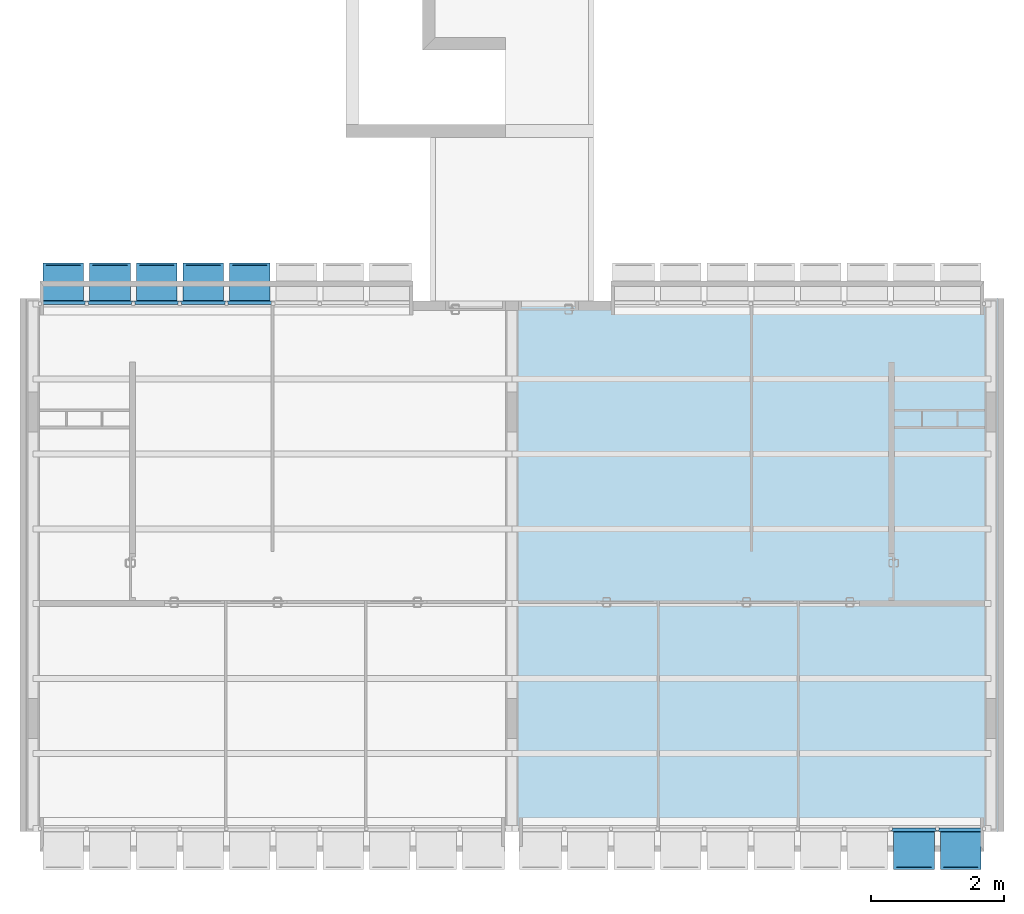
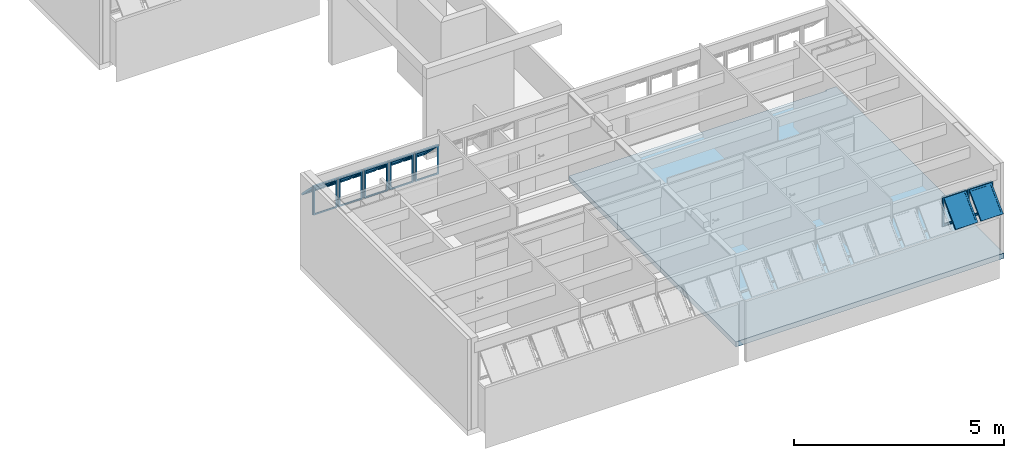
# One storey, part 7 of 40: 7 plates, 1 slab, 2 elements without a shape of their own.
"""IFC4 building model written with IfcOpenShell, lengths in millimetres."""

from ifc_helpers import new_model, entity, si_unit, converted_unit, derived_unit, direction, frame, origin_with_axes, place, context, subcontext, project, spatial, line, indexed_curve, outline, extrude, polygons, source, transform, mapped, material, layer, layer_set, layer_usage, constituent, constituent_set, type_object, element, aggregate, save


model = new_model("IFC4")

# Units and contexts
model_context = context("Model", 3, precision=0.01, world=origin_with_axes(), true_north=direction((0.0, 1.0)))
body_context = subcontext(model_context, "Body", "Model", "MODEL_VIEW")
ifc_project = project(units=[si_unit("LENGTHUNIT", "METRE", prefix="MILLI"), si_unit("AREAUNIT", "SQUARE_METRE"), si_unit("VOLUMEUNIT", "CUBIC_METRE"), converted_unit("PLANEANGLEUNIT", "DEGREE", entity("IfcPlaneAngleMeasure", 0.0174532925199), si_unit("PLANEANGLEUNIT", "RADIAN"), dimensions=[0, 0, 0, 0, 0, 0, 0]), converted_unit("TIMEUNIT", "Year", entity("IfcTimeMeasure", 31556926.0), si_unit("TIMEUNIT", "SECOND"), dimensions=[0, 0, 1, 0, 0, 0, 0]), si_unit("MASSUNIT", "GRAM", prefix="KILO"), si_unit("THERMODYNAMICTEMPERATUREUNIT", "DEGREE_CELSIUS"), si_unit("LUMINOUSINTENSITYUNIT", "LUMEN"), si_unit("ENERGYUNIT", "JOULE", prefix="MEGA"), derived_unit("THERMALCONDUCTANCEUNIT", [(si_unit("POWERUNIT", "WATT"), 1), (si_unit("LENGTHUNIT", "METRE"), -1), (si_unit("THERMODYNAMICTEMPERATUREUNIT", "KELVIN"), -1)]), derived_unit("SPECIFICHEATCAPACITYUNIT", [(si_unit("ENERGYUNIT", "JOULE"), 1), (si_unit("MASSUNIT", "GRAM", prefix="KILO"), -1), (si_unit("THERMODYNAMICTEMPERATUREUNIT", "KELVIN"), -1)]), derived_unit("MASSDENSITYUNIT", [(si_unit("MASSUNIT", "GRAM", prefix="KILO"), 1), (si_unit("VOLUMEUNIT", "CUBIC_METRE"), -1)])], contexts=[model_context])

# Site, building, storey
site_placement = place(None, origin_with_axes())
site = spatial("IfcSite", under=ifc_project, at=site_placement, Name="Local", CompositionType="ELEMENT")
building_placement = place(site_placement, origin_with_axes())
building = spatial("IfcBuilding", under=site, at=building_placement, Name="Construção", CompositionType="ELEMENT")
storey_placement = place(building_placement, frame((0.0, 0.0, 5300.0), z_axis=(0.0, 0.0, 1.0), x_axis=(1.0, 0.0, 0.0)))
storey = spatial("IfcBuildingStorey", under=building, at=storey_placement, Name="Terceiro Pavimento", CompositionType="ELEMENT", Elevation=5300.0)

# Slab
ifc_material_1 = material(Name="Concreto Armado Moldado in Loco - Estrutural")
ifc_layer = layer(ifc_material_1, 150.0, ventilated="UNKNOWN", Name="Concreto Armado Moldado in Loco - Estrutural")
ifc_layer_set = layer_set([ifc_layer], Name="Concreto Armado Moldado in Loco - Estrutural 150")
ifc_layer_usage = layer_usage(ifc_layer_set, "AXIS3", "NEGATIVE", 150.0)
slab_type = type_object("IfcSlabType", Name="Concreto Armado Moldado in Loco - Estrutural 150", PredefinedType="FLOOR")
slab_placement = place(storey_placement, frame((14770.0, 300.0, 0.0), z_axis=(0.0, 0.0, 1.0), x_axis=(1.0, 0.0, 0.0)))
element("IfcSlab", 1, at=slab_placement, inside=storey, type_object=slab_type, material=ifc_layer_usage, Name="APTO10-LAJE-000", PredefinedType="FLOOR", context=body_context, shape_type="SweptSolid", body=[
    extrude(outline(indexed_curve([(0.0, 0.0), (0.0, 7999.99999872), (-289.999999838, 8000.00000006), (-290.0, 7965.0), (-5900.0, 7965.0), (-6160.00008404, 7964.99999866), (-7385.0, 7964.99999866), (-7385.0, 0.0), (-299.999978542, 0.0)], segments=[line(1, 2, 3, 4, 5, 6, 7, 8, 9, 1)])), frame((0.0, 0.0, -150.0), z_axis=(0.0, 0.0, 1.0), x_axis=(1.0, 0.0, 0.0)), (0.0, 0.0, 1.0), 150.0),
])

# Window, plates
window_type = type_object("IfcWindowType", Name="Tipo de Parede Cortina", PartitioningType="NOTDEFINED", PredefinedType="NOTDEFINED")
window_1_placement = place(storey_placement, frame((2750.0, 8250.0, 1355.00007107), z_axis=(0.0, 0.0, 1.0), x_axis=(1.0, 0.0, 0.0)))
window_1 = element("IfcWindow", 2, at=window_1_placement, inside=storey, type_object=window_type, Name="APTO9-JANELA-000", PredefinedType="NOTDEFINED")
ifc_material_2 = material(Name="Alumínio")
ifc_constituent_1 = constituent(ifc_material_2, Name="Alumínio")
ifc_material_3 = material(Name="Vidro")
ifc_constituent_2 = constituent(ifc_material_3, Name="Vidro")
ifc_constituent_set_1 = constituent_set(constituents=[ifc_constituent_1, ifc_constituent_2])
plate_type = type_object("IfcPlateType", Name="Painel Principal 690 x 845 x 20", PredefinedType="CURTAIN_PANEL")
shared_shape_1 = source(origin_with_axes(), body_context, "Body", "Tessellation", [
    polygons([(-25.0000036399, 0.0, -40.0), (-25.0000036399, 0.0, -35.0), (-674.999997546, 0.0, -35.0), (-674.999997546, 0.0, -40.0), (-70.0000036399, 45.0, -40.0), (-70.0000036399, 45.0, -35.0), (-629.999997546, 45.0, -35.0), (-629.999997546, 45.0, -40.0)], [[[1, 2, 3, 4]], [[5, 6, 2, 1]], [[2, 6, 7, 3]], [[4, 3, 7, 8]], [[1, 4, 8, 5]], [[8, 7, 6, 5]]], closed=True),
    polygons([(-674.999997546, 0.0, -40.0), (-674.999997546, 0.0, -35.0), (-674.999997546, 844.999891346, -35.0), (-674.999997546, 844.999891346, -40.0), (-629.999997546, 45.0, -40.0), (-629.999997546, 45.0, -35.0), (-629.999997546, 799.999891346, -35.0), (-629.999997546, 799.999891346, -40.0)], [[[1, 2, 3, 4]], [[5, 6, 2, 1]], [[2, 6, 7, 3]], [[4, 3, 7, 8]], [[1, 4, 8, 5]], [[8, 7, 6, 5]]], closed=True),
    polygons([(-25.0000036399, 844.999891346, -40.0), (-25.0000036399, 844.999891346, -35.0), (-70.0000036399, 799.999891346, -35.0), (-70.0000036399, 799.999891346, -40.0), (-674.999997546, 844.999891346, -40.0), (-674.999997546, 844.999891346, -35.0), (-629.999997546, 799.999891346, -35.0), (-629.999997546, 799.999891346, -40.0)], [[[1, 2, 3, 4]], [[5, 6, 2, 1]], [[2, 6, 7, 3]], [[4, 3, 7, 8]], [[1, 4, 8, 5]], [[8, 7, 6, 5]]], closed=True),
    polygons([(-25.0000036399, 0.0, -40.0), (-25.0000036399, 0.0, -35.0), (-70.0000036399, 45.0, -35.0), (-70.0000036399, 45.0, -40.0), (-25.0000036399, 844.999891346, -40.0), (-25.0000036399, 844.999891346, -35.0), (-70.0000036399, 799.999891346, -35.0), (-70.0000036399, 799.999891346, -40.0)], [[[1, 2, 3, 4]], [[5, 6, 2, 1]], [[2, 6, 7, 3]], [[4, 3, 7, 8]], [[1, 4, 8, 5]], [[8, 7, 6, 5]]], closed=True),
    polygons([(-25.0000036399, 0.0, -35.0), (-25.0000036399, 0.0, 15.0), (-674.999997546, 0.0, 15.0), (-674.999997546, 0.0, -35.0), (-45.0000036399, 20.0, -35.0), (-45.0000036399, 20.0, 15.0), (-654.999997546, 20.0, 15.0), (-654.999997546, 20.0, -35.0)], [[[1, 2, 3, 4]], [[5, 6, 2, 1]], [[2, 6, 7, 3]], [[4, 3, 7, 8]], [[1, 4, 8, 5]], [[8, 7, 6, 5]]], closed=True),
    polygons([(-674.999997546, 0.0, -35.0), (-674.999997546, 0.0, 15.0), (-674.999997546, 844.999891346, 15.0), (-674.999997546, 844.999891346, -35.0), (-654.999997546, 20.0, -35.0), (-654.999997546, 20.0, 15.0), (-654.999997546, 824.999891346, 15.0), (-654.999997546, 824.999891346, -35.0)], [[[1, 2, 3, 4]], [[5, 6, 2, 1]], [[2, 6, 7, 3]], [[4, 3, 7, 8]], [[1, 4, 8, 5]], [[8, 7, 6, 5]]], closed=True),
    polygons([(-25.0000036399, 844.999891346, -35.0), (-25.0000036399, 844.999891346, 15.0), (-45.0000036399, 824.999891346, 15.0), (-45.0000036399, 824.999891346, -35.0), (-674.999997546, 844.999891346, -35.0), (-674.999997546, 844.999891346, 15.0), (-654.999997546, 824.999891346, 15.0), (-654.999997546, 824.999891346, -35.0)], [[[1, 2, 3, 4]], [[5, 6, 2, 1]], [[2, 6, 7, 3]], [[4, 3, 7, 8]], [[1, 4, 8, 5]], [[8, 7, 6, 5]]], closed=True),
    polygons([(-25.0000036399, 0.0, -35.0), (-25.0000036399, 0.0, 15.0), (-45.0000036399, 20.0, 15.0), (-45.0000036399, 20.0, -35.0), (-25.0000036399, 844.999891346, -35.0), (-25.0000036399, 844.999891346, 15.0), (-45.0000036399, 824.999891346, 15.0), (-45.0000036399, 824.999891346, -35.0)], [[[1, 2, 3, 4]], [[5, 6, 2, 1]], [[2, 6, 7, 3]], [[4, 3, 7, 8]], [[1, 4, 8, 5]], [[8, 7, 6, 5]]], closed=True),
    polygons([(-694.999995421, 0.0, -10.0), (-694.999995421, 0.0, 10.0), (-694.999995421, 844.999891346, 10.0), (-694.999995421, 844.999891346, -10.0), (-674.999997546, 0.0, -10.0), (-674.999997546, 0.0, 10.0), (-674.999997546, 844.999891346, 10.0), (-674.999997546, 844.999891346, -10.0)], [[[1, 2, 3, 4]], [[5, 6, 2, 1]], [[2, 6, 7, 3]], [[4, 3, 7, 8]], [[1, 4, 8, 5]], [[8, 7, 6, 5]]], closed=True),
    polygons([(-5.00000576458, 844.999891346, -10.0), (-5.00000576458, 844.999891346, 10.0), (-5.00000576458, 0.0, 10.0), (-5.00000576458, 0.0, -10.0), (-25.0000036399, 844.999891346, -10.0), (-25.0000036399, 844.999891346, 10.0), (-25.0000036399, 0.0, 10.0), (-25.0000036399, 0.0, -10.0)], [[[1, 2, 3, 4]], [[5, 6, 2, 1]], [[2, 6, 7, 3]], [[4, 3, 7, 8]], [[1, 4, 8, 5]], [[8, 7, 6, 5]]], closed=True),
    polygons([(-90.0000036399, 252.243475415, 517.045737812), (-90.0000036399, 291.13434838, 555.936610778), (-90.0000036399, 796.715620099, 50.3553390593), (-90.0000036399, 757.824747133, 11.4644660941), (-45.0000036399, 220.423670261, 548.865542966), (-45.0000036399, 259.314543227, 587.756415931), (-45.0000036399, 828.535425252, 18.5355339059), (-45.0000036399, 789.644552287, -20.3553390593)], [[[1, 2, 3, 4]], [[5, 6, 2, 1]], [[2, 6, 7, 3]], [[4, 3, 7, 8]], [[1, 4, 8, 5]], [[8, 7, 6, 5]]], closed=True),
    polygons([(-654.999997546, 220.423670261, 548.865542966), (-654.999997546, 259.314543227, 587.756415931), (-654.999997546, 828.535425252, 18.5355339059), (-654.999997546, 789.644552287, -20.3553390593), (-609.999997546, 252.243475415, 517.045737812), (-609.999997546, 291.13434838, 555.936610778), (-609.999997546, 796.715620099, 50.3553390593), (-609.999997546, 757.824747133, 11.4644660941)], [[[1, 2, 3, 4]], [[5, 6, 2, 1]], [[2, 6, 7, 3]], [[4, 3, 7, 8]], [[1, 4, 8, 5]], [[8, 7, 6, 5]]], closed=True),
    polygons([(-654.999997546, 220.423670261, 548.865542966), (-654.999997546, 259.314543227, 587.756415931), (-609.999997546, 291.13434838, 555.936610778), (-609.999997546, 252.243475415, 517.045737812), (-45.0000036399, 220.423670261, 548.865542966), (-45.0000036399, 259.314543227, 587.756415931), (-90.0000036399, 291.13434838, 555.936610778), (-90.0000036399, 252.243475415, 517.045737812)], [[[1, 2, 3, 4]], [[5, 6, 2, 1]], [[2, 6, 7, 3]], [[4, 3, 7, 8]], [[1, 4, 8, 5]], [[8, 7, 6, 5]]], closed=True),
    polygons([(-45.0000036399, 789.644552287, -20.3553390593), (-45.0000036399, 828.535425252, 18.5355339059), (-90.0000036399, 796.715620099, 50.3553390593), (-90.0000036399, 757.824747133, 11.4644660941), (-654.999997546, 789.644552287, -20.3553390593), (-654.999997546, 828.535425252, 18.5355339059), (-609.999997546, 796.715620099, 50.3553390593), (-609.999997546, 757.824747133, 11.4644660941)], [[[1, 2, 3, 4]], [[5, 6, 2, 1]], [[2, 6, 7, 3]], [[4, 3, 7, 8]], [[1, 4, 8, 5]], [[8, 7, 6, 5]]], closed=True),
    polygons([(-90.0000036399, 272.749572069, 537.551834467), (-90.0000036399, 284.063280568, 548.865542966), (-609.999997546, 284.063280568, 548.865542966), (-609.999997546, 272.749572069, 537.551834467), (-90.0000036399, 778.330843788, 31.9705627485), (-90.0000036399, 789.644552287, 43.2842712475), (-609.999997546, 789.644552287, 43.2842712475), (-609.999997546, 778.330843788, 31.9705627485)], [[[1, 2, 3, 4]], [[5, 6, 2, 1]], [[2, 6, 7, 3]], [[4, 3, 7, 8]], [[1, 4, 8, 5]], [[8, 7, 6, 5]]], closed=True),
])
plate_1_placement = place(window_1_placement, frame((0.0, 0.0, 422.499964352), z_axis=(0.0, 0.0, 1.0), x_axis=(-1.0, 0.0, 0.0)))
plate_1 = element("IfcPlate", 3, at=plate_1_placement, type_object=plate_type, material=ifc_constituent_set_1, Name="APTO9-Painel-Prin-013", PredefinedType="CURTAIN_PANEL", context=body_context, shape_type="MappedRepresentation", body=[
    mapped(shared_shape_1, transform((350.0, 0.0, -422.499964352), x_axis=(1.0, 0.0, 0.0), y_axis=(0.0, 0.0, 1.0), z_axis=(0.0, -1.0, 0.0))),
])
ifc_constituent_3 = constituent(ifc_material_2, Name="Alumínio")
ifc_constituent_4 = constituent(ifc_material_3, Name="Vidro")
ifc_constituent_set_2 = constituent_set(constituents=[ifc_constituent_3, ifc_constituent_4])
shared_shape_2 = source(origin_with_axes(), body_context, "Body", "Tessellation", [
    polygons([(-25.0000036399, 0.0, -40.0), (-25.0000036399, 0.0, -35.0), (-674.999997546, 0.0, -35.0), (-674.999997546, 0.0, -40.0), (-70.0000036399, 45.0, -40.0), (-70.0000036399, 45.0, -35.0), (-629.999997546, 45.0, -35.0), (-629.999997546, 45.0, -40.0)], [[[1, 2, 3, 4]], [[5, 6, 2, 1]], [[2, 6, 7, 3]], [[4, 3, 7, 8]], [[1, 4, 8, 5]], [[8, 7, 6, 5]]], closed=True),
    polygons([(-674.999997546, 0.0, -40.0), (-674.999997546, 0.0, -35.0), (-674.999997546, 844.999891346, -35.0), (-674.999997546, 844.999891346, -40.0), (-629.999997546, 45.0, -40.0), (-629.999997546, 45.0, -35.0), (-629.999997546, 799.999891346, -35.0), (-629.999997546, 799.999891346, -40.0)], [[[1, 2, 3, 4]], [[5, 6, 2, 1]], [[2, 6, 7, 3]], [[4, 3, 7, 8]], [[1, 4, 8, 5]], [[8, 7, 6, 5]]], closed=True),
    polygons([(-25.0000036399, 844.999891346, -40.0), (-25.0000036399, 844.999891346, -35.0), (-70.0000036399, 799.999891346, -35.0), (-70.0000036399, 799.999891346, -40.0), (-674.999997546, 844.999891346, -40.0), (-674.999997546, 844.999891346, -35.0), (-629.999997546, 799.999891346, -35.0), (-629.999997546, 799.999891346, -40.0)], [[[1, 2, 3, 4]], [[5, 6, 2, 1]], [[2, 6, 7, 3]], [[4, 3, 7, 8]], [[1, 4, 8, 5]], [[8, 7, 6, 5]]], closed=True),
    polygons([(-25.0000036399, 0.0, -40.0), (-25.0000036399, 0.0, -35.0), (-70.0000036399, 45.0, -35.0), (-70.0000036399, 45.0, -40.0), (-25.0000036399, 844.999891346, -40.0), (-25.0000036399, 844.999891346, -35.0), (-70.0000036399, 799.999891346, -35.0), (-70.0000036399, 799.999891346, -40.0)], [[[1, 2, 3, 4]], [[5, 6, 2, 1]], [[2, 6, 7, 3]], [[4, 3, 7, 8]], [[1, 4, 8, 5]], [[8, 7, 6, 5]]], closed=True),
    polygons([(-25.0000036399, 0.0, -35.0), (-25.0000036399, 0.0, 15.0), (-674.999997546, 0.0, 15.0), (-674.999997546, 0.0, -35.0), (-45.0000036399, 20.0, -35.0), (-45.0000036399, 20.0, 15.0), (-654.999997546, 20.0, 15.0), (-654.999997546, 20.0, -35.0)], [[[1, 2, 3, 4]], [[5, 6, 2, 1]], [[2, 6, 7, 3]], [[4, 3, 7, 8]], [[1, 4, 8, 5]], [[8, 7, 6, 5]]], closed=True),
    polygons([(-674.999997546, 0.0, -35.0), (-674.999997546, 0.0, 15.0), (-674.999997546, 844.999891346, 15.0), (-674.999997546, 844.999891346, -35.0), (-654.999997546, 20.0, -35.0), (-654.999997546, 20.0, 15.0), (-654.999997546, 824.999891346, 15.0), (-654.999997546, 824.999891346, -35.0)], [[[1, 2, 3, 4]], [[5, 6, 2, 1]], [[2, 6, 7, 3]], [[4, 3, 7, 8]], [[1, 4, 8, 5]], [[8, 7, 6, 5]]], closed=True),
    polygons([(-25.0000036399, 844.999891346, -35.0), (-25.0000036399, 844.999891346, 15.0), (-45.0000036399, 824.999891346, 15.0), (-45.0000036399, 824.999891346, -35.0), (-674.999997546, 844.999891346, -35.0), (-674.999997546, 844.999891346, 15.0), (-654.999997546, 824.999891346, 15.0), (-654.999997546, 824.999891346, -35.0)], [[[1, 2, 3, 4]], [[5, 6, 2, 1]], [[2, 6, 7, 3]], [[4, 3, 7, 8]], [[1, 4, 8, 5]], [[8, 7, 6, 5]]], closed=True),
    polygons([(-25.0000036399, 0.0, -35.0), (-25.0000036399, 0.0, 15.0), (-45.0000036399, 20.0, 15.0), (-45.0000036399, 20.0, -35.0), (-25.0000036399, 844.999891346, -35.0), (-25.0000036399, 844.999891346, 15.0), (-45.0000036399, 824.999891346, 15.0), (-45.0000036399, 824.999891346, -35.0)], [[[1, 2, 3, 4]], [[5, 6, 2, 1]], [[2, 6, 7, 3]], [[4, 3, 7, 8]], [[1, 4, 8, 5]], [[8, 7, 6, 5]]], closed=True),
    polygons([(-694.999995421, 0.0, -10.0), (-694.999995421, 0.0, 10.0), (-694.999995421, 844.999891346, 10.0), (-694.999995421, 844.999891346, -10.0), (-674.999997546, 0.0, -10.0), (-674.999997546, 0.0, 10.0), (-674.999997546, 844.999891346, 10.0), (-674.999997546, 844.999891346, -10.0)], [[[1, 2, 3, 4]], [[5, 6, 2, 1]], [[2, 6, 7, 3]], [[4, 3, 7, 8]], [[1, 4, 8, 5]], [[8, 7, 6, 5]]], closed=True),
    polygons([(-5.00000576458, 844.999891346, -10.0), (-5.00000576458, 844.999891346, 10.0), (-5.00000576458, 0.0, 10.0), (-5.00000576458, 0.0, -10.0), (-25.0000036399, 844.999891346, -10.0), (-25.0000036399, 844.999891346, 10.0), (-25.0000036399, 0.0, 10.0), (-25.0000036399, 0.0, -10.0)], [[[1, 2, 3, 4]], [[5, 6, 2, 1]], [[2, 6, 7, 3]], [[4, 3, 7, 8]], [[1, 4, 8, 5]], [[8, 7, 6, 5]]], closed=True),
    polygons([(-90.0000036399, 252.243475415, 517.045737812), (-90.0000036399, 291.13434838, 555.936610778), (-90.0000036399, 796.715620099, 50.3553390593), (-90.0000036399, 757.824747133, 11.4644660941), (-45.0000036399, 220.423670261, 548.865542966), (-45.0000036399, 259.314543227, 587.756415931), (-45.0000036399, 828.535425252, 18.5355339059), (-45.0000036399, 789.644552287, -20.3553390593)], [[[1, 2, 3, 4]], [[5, 6, 2, 1]], [[2, 6, 7, 3]], [[4, 3, 7, 8]], [[1, 4, 8, 5]], [[8, 7, 6, 5]]], closed=True),
    polygons([(-654.999997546, 220.423670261, 548.865542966), (-654.999997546, 259.314543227, 587.756415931), (-654.999997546, 828.535425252, 18.5355339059), (-654.999997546, 789.644552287, -20.3553390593), (-609.999997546, 252.243475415, 517.045737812), (-609.999997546, 291.13434838, 555.936610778), (-609.999997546, 796.715620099, 50.3553390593), (-609.999997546, 757.824747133, 11.4644660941)], [[[1, 2, 3, 4]], [[5, 6, 2, 1]], [[2, 6, 7, 3]], [[4, 3, 7, 8]], [[1, 4, 8, 5]], [[8, 7, 6, 5]]], closed=True),
    polygons([(-654.999997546, 220.423670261, 548.865542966), (-654.999997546, 259.314543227, 587.756415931), (-609.999997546, 291.13434838, 555.936610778), (-609.999997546, 252.243475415, 517.045737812), (-45.0000036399, 220.423670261, 548.865542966), (-45.0000036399, 259.314543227, 587.756415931), (-90.0000036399, 291.13434838, 555.936610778), (-90.0000036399, 252.243475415, 517.045737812)], [[[1, 2, 3, 4]], [[5, 6, 2, 1]], [[2, 6, 7, 3]], [[4, 3, 7, 8]], [[1, 4, 8, 5]], [[8, 7, 6, 5]]], closed=True),
    polygons([(-45.0000036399, 789.644552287, -20.3553390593), (-45.0000036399, 828.535425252, 18.5355339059), (-90.0000036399, 796.715620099, 50.3553390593), (-90.0000036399, 757.824747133, 11.4644660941), (-654.999997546, 789.644552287, -20.3553390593), (-654.999997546, 828.535425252, 18.5355339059), (-609.999997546, 796.715620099, 50.3553390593), (-609.999997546, 757.824747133, 11.4644660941)], [[[1, 2, 3, 4]], [[5, 6, 2, 1]], [[2, 6, 7, 3]], [[4, 3, 7, 8]], [[1, 4, 8, 5]], [[8, 7, 6, 5]]], closed=True),
    polygons([(-90.0000036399, 272.749572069, 537.551834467), (-90.0000036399, 284.063280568, 548.865542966), (-609.999997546, 284.063280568, 548.865542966), (-609.999997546, 272.749572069, 537.551834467), (-90.0000036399, 778.330843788, 31.9705627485), (-90.0000036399, 789.644552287, 43.2842712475), (-609.999997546, 789.644552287, 43.2842712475), (-609.999997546, 778.330843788, 31.9705627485)], [[[1, 2, 3, 4]], [[5, 6, 2, 1]], [[2, 6, 7, 3]], [[4, 3, 7, 8]], [[1, 4, 8, 5]], [[8, 7, 6, 5]]], closed=True),
])
plate_2_placement = place(window_1_placement, frame((-2100.0, 0.0, 422.499998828), z_axis=(0.0, 0.0, 1.0), x_axis=(-1.0, 0.0, 0.0)))
plate_2 = element("IfcPlate", 4, at=plate_2_placement, type_object=plate_type, material=ifc_constituent_set_2, Name="APTO9-Painel-Prin-013", PredefinedType="CURTAIN_PANEL", context=body_context, shape_type="MappedRepresentation", body=[
    mapped(shared_shape_2, transform((350.0, 0.0, -422.499998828), x_axis=(1.0, 0.0, 0.0), y_axis=(0.0, 0.0, 1.0), z_axis=(0.0, -1.0, 0.0))),
])
ifc_constituent_5 = constituent(ifc_material_2, Name="Alumínio")
ifc_constituent_6 = constituent(ifc_material_3, Name="Vidro")
ifc_constituent_set_3 = constituent_set(constituents=[ifc_constituent_5, ifc_constituent_6])
plate_3_placement = place(window_1_placement, frame((-1400.0, 0.0, 422.499964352), z_axis=(0.0, 0.0, 1.0), x_axis=(-1.0, 0.0, 0.0)))
plate_3 = element("IfcPlate", 5, at=plate_3_placement, type_object=plate_type, material=ifc_constituent_set_3, Name="APTO9-Painel-Prin-013", PredefinedType="CURTAIN_PANEL", context=body_context, shape_type="MappedRepresentation", body=[
    mapped(shared_shape_2, transform((350.0, 0.0, -422.499964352), x_axis=(1.0, 0.0, 0.0), y_axis=(0.0, 0.0, 1.0), z_axis=(0.0, -1.0, 0.0))),
])

window_2_placement = place(storey_placement, frame((8520.0, 315.020977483, 1355.02054151), z_axis=(0.0, 0.0, 1.0), x_axis=(1.0, 0.0, 0.0)))
window_2 = element("IfcWindow", 6, at=window_2_placement, inside=storey, type_object=window_type, Name="APTO10-JANELA-001", PredefinedType="NOTDEFINED")
ifc_constituent_7 = constituent(ifc_material_2, Name="Alumínio")
ifc_constituent_8 = constituent(ifc_material_3, Name="Vidro")
ifc_constituent_set_4 = constituent_set(constituents=[ifc_constituent_7, ifc_constituent_8])
plate_4_placement = place(window_2_placement, frame((5600.0, 0.0, 422.499945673), z_axis=(0.0, 0.0, 1.0), x_axis=(1.0, 0.0, 0.0)))
plate_4 = element("IfcPlate", 7, at=plate_4_placement, type_object=plate_type, material=ifc_constituent_set_4, Name="APTO10-Painel-Prin-013", PredefinedType="CURTAIN_PANEL", context=body_context, shape_type="MappedRepresentation", body=[
    mapped(shared_shape_2, transform((350.0, 0.0, -422.499945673), x_axis=(1.0, 0.0, 0.0), y_axis=(0.0, 0.0, 1.0), z_axis=(0.0, -1.0, 0.0))),
])
ifc_constituent_9 = constituent(ifc_material_2, Name="Alumínio")
ifc_constituent_10 = constituent(ifc_material_3, Name="Vidro")
ifc_constituent_set_5 = constituent_set(constituents=[ifc_constituent_9, ifc_constituent_10])
plate_5_placement = place(window_2_placement, frame((4900.0, 0.0, 422.499945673), z_axis=(0.0, 0.0, 1.0), x_axis=(1.0, 0.0, 0.0)))
plate_5 = element("IfcPlate", 8, at=plate_5_placement, type_object=plate_type, material=ifc_constituent_set_5, Name="APTO10-Painel-Prin-013", PredefinedType="CURTAIN_PANEL", context=body_context, shape_type="MappedRepresentation", body=[
    mapped(shared_shape_2, transform((350.0, 0.0, -422.499945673), x_axis=(1.0, 0.0, 0.0), y_axis=(0.0, 0.0, 1.0), z_axis=(0.0, -1.0, 0.0))),
])
aggregate(window_2, [plate_4, plate_5])

# Plate
ifc_constituent_11 = constituent(ifc_material_2, Name="Alumínio")
ifc_constituent_12 = constituent(ifc_material_3, Name="Vidro")
ifc_constituent_set_6 = constituent_set(constituents=[ifc_constituent_11, ifc_constituent_12])
shared_shape_3 = source(origin_with_axes(), body_context, "Body", "Tessellation", [
    polygons([(-25.0000036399, 0.0, -40.0), (-25.0000036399, 0.0, -35.0), (-674.999997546, 0.0, -35.0), (-674.999997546, 0.0, -40.0), (-70.0000036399, 45.0, -40.0), (-70.0000036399, 45.0, -35.0), (-629.999997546, 45.0, -35.0), (-629.999997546, 45.0, -40.0)], [[[1, 2, 3, 4]], [[5, 6, 2, 1]], [[2, 6, 7, 3]], [[4, 3, 7, 8]], [[1, 4, 8, 5]], [[8, 7, 6, 5]]], closed=True),
    polygons([(-674.999997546, 0.0, -40.0), (-674.999997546, 0.0, -35.0), (-674.999997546, 844.999891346, -35.0), (-674.999997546, 844.999891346, -40.0), (-629.999997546, 45.0, -40.0), (-629.999997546, 45.0, -35.0), (-629.999997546, 799.999891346, -35.0), (-629.999997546, 799.999891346, -40.0)], [[[1, 2, 3, 4]], [[5, 6, 2, 1]], [[2, 6, 7, 3]], [[4, 3, 7, 8]], [[1, 4, 8, 5]], [[8, 7, 6, 5]]], closed=True),
    polygons([(-25.0000036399, 844.999891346, -40.0), (-25.0000036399, 844.999891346, -35.0), (-70.0000036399, 799.999891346, -35.0), (-70.0000036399, 799.999891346, -40.0), (-674.999997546, 844.999891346, -40.0), (-674.999997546, 844.999891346, -35.0), (-629.999997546, 799.999891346, -35.0), (-629.999997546, 799.999891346, -40.0)], [[[1, 2, 3, 4]], [[5, 6, 2, 1]], [[2, 6, 7, 3]], [[4, 3, 7, 8]], [[1, 4, 8, 5]], [[8, 7, 6, 5]]], closed=True),
    polygons([(-25.0000036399, 0.0, -40.0), (-25.0000036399, 0.0, -35.0), (-70.0000036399, 45.0, -35.0), (-70.0000036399, 45.0, -40.0), (-25.0000036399, 844.999891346, -40.0), (-25.0000036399, 844.999891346, -35.0), (-70.0000036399, 799.999891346, -35.0), (-70.0000036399, 799.999891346, -40.0)], [[[1, 2, 3, 4]], [[5, 6, 2, 1]], [[2, 6, 7, 3]], [[4, 3, 7, 8]], [[1, 4, 8, 5]], [[8, 7, 6, 5]]], closed=True),
    polygons([(-25.0000036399, 0.0, -35.0), (-25.0000036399, 0.0, 15.0), (-674.999997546, 0.0, 15.0), (-674.999997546, 0.0, -35.0), (-45.0000036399, 20.0, -35.0), (-45.0000036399, 20.0, 15.0), (-654.999997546, 20.0, 15.0), (-654.999997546, 20.0, -35.0)], [[[1, 2, 3, 4]], [[5, 6, 2, 1]], [[2, 6, 7, 3]], [[4, 3, 7, 8]], [[1, 4, 8, 5]], [[8, 7, 6, 5]]], closed=True),
    polygons([(-674.999997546, 0.0, -35.0), (-674.999997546, 0.0, 15.0), (-674.999997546, 844.999891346, 15.0), (-674.999997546, 844.999891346, -35.0), (-654.999997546, 20.0, -35.0), (-654.999997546, 20.0, 15.0), (-654.999997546, 824.999891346, 15.0), (-654.999997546, 824.999891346, -35.0)], [[[1, 2, 3, 4]], [[5, 6, 2, 1]], [[2, 6, 7, 3]], [[4, 3, 7, 8]], [[1, 4, 8, 5]], [[8, 7, 6, 5]]], closed=True),
    polygons([(-25.0000036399, 844.999891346, -35.0), (-25.0000036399, 844.999891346, 15.0), (-45.0000036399, 824.999891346, 15.0), (-45.0000036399, 824.999891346, -35.0), (-674.999997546, 844.999891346, -35.0), (-674.999997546, 844.999891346, 15.0), (-654.999997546, 824.999891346, 15.0), (-654.999997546, 824.999891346, -35.0)], [[[1, 2, 3, 4]], [[5, 6, 2, 1]], [[2, 6, 7, 3]], [[4, 3, 7, 8]], [[1, 4, 8, 5]], [[8, 7, 6, 5]]], closed=True),
    polygons([(-25.0000036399, 0.0, -35.0), (-25.0000036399, 0.0, 15.0), (-45.0000036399, 20.0, 15.0), (-45.0000036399, 20.0, -35.0), (-25.0000036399, 844.999891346, -35.0), (-25.0000036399, 844.999891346, 15.0), (-45.0000036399, 824.999891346, 15.0), (-45.0000036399, 824.999891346, -35.0)], [[[1, 2, 3, 4]], [[5, 6, 2, 1]], [[2, 6, 7, 3]], [[4, 3, 7, 8]], [[1, 4, 8, 5]], [[8, 7, 6, 5]]], closed=True),
    polygons([(-694.999995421, 0.0, -10.0), (-694.999995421, 0.0, 10.0), (-694.999995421, 844.999891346, 10.0), (-694.999995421, 844.999891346, -10.0), (-674.999997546, 0.0, -10.0), (-674.999997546, 0.0, 10.0), (-674.999997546, 844.999891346, 10.0), (-674.999997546, 844.999891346, -10.0)], [[[1, 2, 3, 4]], [[5, 6, 2, 1]], [[2, 6, 7, 3]], [[4, 3, 7, 8]], [[1, 4, 8, 5]], [[8, 7, 6, 5]]], closed=True),
    polygons([(-5.00000576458, 844.999891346, -10.0), (-5.00000576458, 844.999891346, 10.0), (-5.00000576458, 0.0, 10.0), (-5.00000576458, 0.0, -10.0), (-25.0000036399, 844.999891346, -10.0), (-25.0000036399, 844.999891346, 10.0), (-25.0000036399, 0.0, 10.0), (-25.0000036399, 0.0, -10.0)], [[[1, 2, 3, 4]], [[5, 6, 2, 1]], [[2, 6, 7, 3]], [[4, 3, 7, 8]], [[1, 4, 8, 5]], [[8, 7, 6, 5]]], closed=True),
    polygons([(-90.0000036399, 252.243475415, 517.045737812), (-90.0000036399, 291.13434838, 555.936610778), (-90.0000036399, 796.715620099, 50.3553390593), (-90.0000036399, 757.824747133, 11.4644660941), (-45.0000036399, 220.423670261, 548.865542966), (-45.0000036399, 259.314543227, 587.756415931), (-45.0000036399, 828.535425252, 18.5355339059), (-45.0000036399, 789.644552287, -20.3553390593)], [[[1, 2, 3, 4]], [[5, 6, 2, 1]], [[2, 6, 7, 3]], [[4, 3, 7, 8]], [[1, 4, 8, 5]], [[8, 7, 6, 5]]], closed=True),
    polygons([(-654.999997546, 220.423670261, 548.865542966), (-654.999997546, 259.314543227, 587.756415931), (-654.999997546, 828.535425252, 18.5355339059), (-654.999997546, 789.644552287, -20.3553390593), (-609.999997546, 252.243475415, 517.045737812), (-609.999997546, 291.13434838, 555.936610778), (-609.999997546, 796.715620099, 50.3553390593), (-609.999997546, 757.824747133, 11.4644660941)], [[[1, 2, 3, 4]], [[5, 6, 2, 1]], [[2, 6, 7, 3]], [[4, 3, 7, 8]], [[1, 4, 8, 5]], [[8, 7, 6, 5]]], closed=True),
    polygons([(-654.999997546, 220.423670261, 548.865542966), (-654.999997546, 259.314543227, 587.756415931), (-609.999997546, 291.13434838, 555.936610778), (-609.999997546, 252.243475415, 517.045737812), (-45.0000036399, 220.423670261, 548.865542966), (-45.0000036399, 259.314543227, 587.756415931), (-90.0000036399, 291.13434838, 555.936610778), (-90.0000036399, 252.243475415, 517.045737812)], [[[1, 2, 3, 4]], [[5, 6, 2, 1]], [[2, 6, 7, 3]], [[4, 3, 7, 8]], [[1, 4, 8, 5]], [[8, 7, 6, 5]]], closed=True),
    polygons([(-45.0000036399, 789.644552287, -20.3553390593), (-45.0000036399, 828.535425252, 18.5355339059), (-90.0000036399, 796.715620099, 50.3553390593), (-90.0000036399, 757.824747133, 11.4644660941), (-654.999997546, 789.644552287, -20.3553390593), (-654.999997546, 828.535425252, 18.5355339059), (-609.999997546, 796.715620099, 50.3553390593), (-609.999997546, 757.824747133, 11.4644660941)], [[[1, 2, 3, 4]], [[5, 6, 2, 1]], [[2, 6, 7, 3]], [[4, 3, 7, 8]], [[1, 4, 8, 5]], [[8, 7, 6, 5]]], closed=True),
    polygons([(-90.0000036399, 272.749572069, 537.551834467), (-90.0000036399, 284.063280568, 548.865542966), (-609.999997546, 284.063280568, 548.865542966), (-609.999997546, 272.749572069, 537.551834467), (-90.0000036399, 778.330843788, 31.9705627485), (-90.0000036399, 789.644552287, 43.2842712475), (-609.999997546, 789.644552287, 43.2842712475), (-609.999997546, 778.330843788, 31.9705627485)], [[[1, 2, 3, 4]], [[5, 6, 2, 1]], [[2, 6, 7, 3]], [[4, 3, 7, 8]], [[1, 4, 8, 5]], [[8, 7, 6, 5]]], closed=True),
])
plate_6_placement = place(window_1_placement, frame((700.0, 0.0, 422.499964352), z_axis=(0.0, 0.0, 1.0), x_axis=(-1.0, 0.0, 0.0)))
plate_6 = element("IfcPlate", 9, at=plate_6_placement, type_object=plate_type, material=ifc_constituent_set_6, Name="APTO9-Painel-Prin-013", PredefinedType="CURTAIN_PANEL", context=body_context, shape_type="MappedRepresentation", body=[
    mapped(shared_shape_3, transform((350.0, 0.0, -422.499964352), x_axis=(1.0, 0.0, 0.0), y_axis=(0.0, 0.0, 1.0), z_axis=(0.0, -1.0, 0.0))),
])

ifc_constituent_13 = constituent(ifc_material_2, Name="Alumínio")
ifc_constituent_14 = constituent(ifc_material_3, Name="Vidro")
ifc_constituent_set_7 = constituent_set(constituents=[ifc_constituent_13, ifc_constituent_14])
plate_7_placement = place(window_1_placement, frame((-700.0, 0.0, 422.499964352), z_axis=(0.0, 0.0, 1.0), x_axis=(-1.0, 0.0, 0.0)))
plate_7 = element("IfcPlate", 10, at=plate_7_placement, type_object=plate_type, material=ifc_constituent_set_7, Name="APTO9-Painel-Prin-013", PredefinedType="CURTAIN_PANEL", context=body_context, shape_type="MappedRepresentation", body=[
    mapped(shared_shape_3, transform((350.0, 0.0, -422.499964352), x_axis=(1.0, 0.0, 0.0), y_axis=(0.0, 0.0, 1.0), z_axis=(0.0, -1.0, 0.0))),
])

aggregate(window_1, [plate_1, plate_2, plate_3, plate_6, plate_7])

save(model, "model.ifc")
